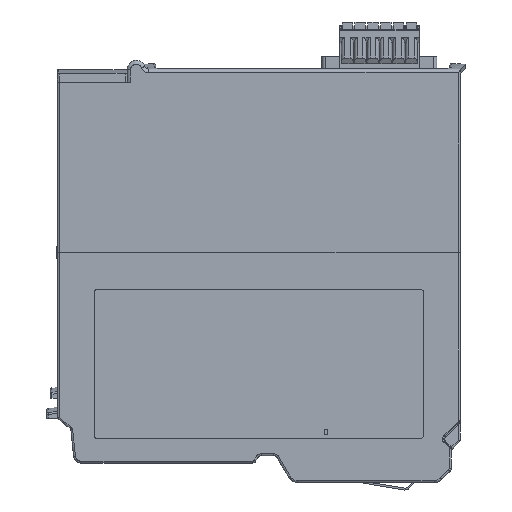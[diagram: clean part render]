
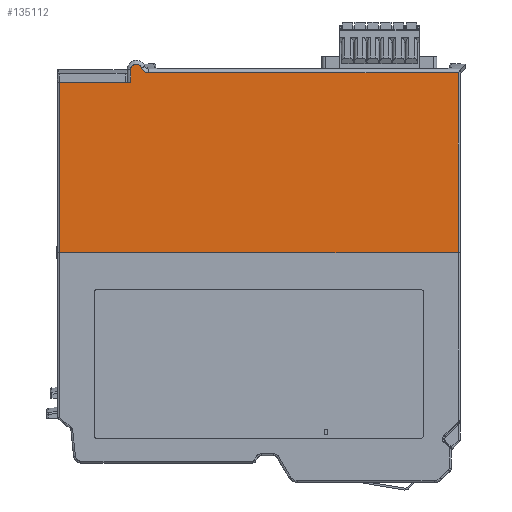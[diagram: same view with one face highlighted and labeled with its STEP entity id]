
A CAD part, left-side view. The second image highlights one B-rep face of the part: STEP entity #135112.
In plain terms, the highlighted planar face has unit normal (-1, 0, 0).
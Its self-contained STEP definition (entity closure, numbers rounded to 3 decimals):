
#3116 =( BOUNDED_CURVE ( )  B_SPLINE_CURVE ( 3, ( #26307, #58980, #93962, #27794 ),
 .UNSPECIFIED., .F., .T. ) 
 B_SPLINE_CURVE_WITH_KNOTS ( ( 4, 4 ),
 ( 0., 1. ),
 .UNSPECIFIED. ) 
 CURVE ( )  GEOMETRIC_REPRESENTATION_ITEM ( )  RATIONAL_B_SPLINE_CURVE ( ( 1., 0.449, 0.449, 1. ) ) 
 REPRESENTATION_ITEM ( '' )  );
#4403 = VECTOR ( 'NONE', #53791, 1000. ) ;
#4856 = CARTESIAN_POINT ( 'NONE',  ( 0., 86.949, 50.125 ) ) ;
#7932 = EDGE_CURVE ( 'NONE', #46662, #29163, #58700, .T. ) ;
#10084 = VECTOR ( 'NONE', #109896, 1000. ) ;
#10913 = LINE ( 'NONE', #99382, #70693 ) ;
#13766 = LINE ( 'NONE', #70224, #138238 ) ;
#16751 = CARTESIAN_POINT ( 'NONE',  ( 0., 86.689, 49.78 ) ) ;
#17176 = CARTESIAN_POINT ( 'NONE',  ( 0., 0.5, 50. ) ) ;
#20598 = EDGE_CURVE ( 'NONE', #85572, #29163, #141973, .T. ) ;
#21870 = PLANE ( 'NONE',  #112180 ) ;
#26307 = CARTESIAN_POINT ( 'NONE',  ( 0., 90., 50. ) ) ;
#27794 = CARTESIAN_POINT ( 'NONE',  ( 0., 87.09, 50.512 ) ) ;
#29163 = VERTEX_POINT ( 'NONE', #142845 ) ;
#33223 = ORIENTED_EDGE ( 'NONE', *, *, #109554, .F. ) ;
#44490 = ORIENTED_EDGE ( 'NONE', *, *, #119229, .F. ) ;
#45006 = DIRECTION ( 'NONE',  ( 0., 0., 1. ) ) ;
#46662 = VERTEX_POINT ( 'NONE', #145677 ) ;
#52432 = EDGE_LOOP ( 'NONE', ( #33223, #131585, #98814, #125477, #84465, #44490, #139820, #53513 ) ) ;
#53513 = ORIENTED_EDGE ( 'NONE', *, *, #20598, .F. ) ;
#53791 = DIRECTION ( 'NONE',  ( 0., 0., 1. ) ) ;
#55274 = LINE ( 'NONE', #64948, #4403 ) ;
#56773 = B_SPLINE_CURVE_WITH_KNOTS ( 'NONE', 3,
 ( #131140, #4856, #16751, #128987, #140082, #62797 ),
 .UNSPECIFIED., .F., .F.,
 ( 4, 2, 4 ),
 ( 0., 0.5, 1. ),
 .UNSPECIFIED. ) ;
#58196 = DIRECTION ( 'NONE',  ( 0., 0., -1. ) ) ;
#58700 = LINE ( 'NONE', #104158, #138850 ) ;
#58980 = CARTESIAN_POINT ( 'NONE',  ( 0., 90., 52.194 ) ) ;
#60446 = VERTEX_POINT ( 'NONE', #121382 ) ;
#62797 = CARTESIAN_POINT ( 'NONE',  ( 0., 85.19, 49.166 ) ) ;
#64433 = CARTESIAN_POINT ( 'NONE',  ( 0., 91., 46.5 ) ) ;
#64948 = CARTESIAN_POINT ( 'NONE',  ( 0., 90., 50. ) ) ;
#67514 = VERTEX_POINT ( 'NONE', #98807 ) ;
#70224 = CARTESIAN_POINT ( 'NONE',  ( 0., 0., 49.166 ) ) ;
#70693 = VECTOR ( 'NONE', #45006, 1000. ) ;
#78318 = FACE_OUTER_BOUND ( 'NONE', #52432, .T. ) ;
#82824 = VERTEX_POINT ( 'NONE', #122376 ) ;
#83665 = EDGE_CURVE ( 'NONE', #111029, #138197, #86843, .T. ) ;
#84465 = ORIENTED_EDGE ( 'NONE', *, *, #83665, .F. ) ;
#85572 = VERTEX_POINT ( 'NONE', #93873 ) ;
#86843 = LINE ( 'NONE', #64433, #10084 ) ;
#87748 = CARTESIAN_POINT ( 'NONE',  ( 0., 109.5, 46.5 ) ) ;
#93873 = CARTESIAN_POINT ( 'NONE',  ( 0., 0.5, 49.166 ) ) ;
#93962 = CARTESIAN_POINT ( 'NONE',  ( 0., 87.839, 52.574 ) ) ;
#98807 = CARTESIAN_POINT ( 'NONE',  ( 0., 85.19, 49.166 ) ) ;
#98814 = ORIENTED_EDGE ( 'NONE', *, *, #112692, .F. ) ;
#99382 = CARTESIAN_POINT ( 'NONE',  ( 0., 109.5, 50. ) ) ;
#103629 = DIRECTION ( 'NONE',  ( 1., 0., 0. ) ) ;
#104158 = CARTESIAN_POINT ( 'NONE',  ( 0., 110.358, 0. ) ) ;
#105238 = DIRECTION ( 'NONE',  ( 0., -1., 0. ) ) ;
#106442 = EDGE_CURVE ( 'NONE', #82824, #67514, #56773, .T. ) ;
#109554 = EDGE_CURVE ( 'NONE', #67514, #85572, #13766, .T. ) ;
#109896 = DIRECTION ( 'NONE',  ( 0., -1., 0. ) ) ;
#111029 = VERTEX_POINT ( 'NONE', #87748 ) ;
#112180 = AXIS2_PLACEMENT_3D ( 'NONE', #137637, #103629, #58196 ) ;
#112692 = EDGE_CURVE ( 'NONE', #60446, #82824, #3116, .T. ) ;
#115752 = CARTESIAN_POINT ( 'NONE',  ( 0., 90., 46.5 ) ) ;
#116687 = DIRECTION ( 'NONE',  ( 0., -1., 0. ) ) ;
#119229 = EDGE_CURVE ( 'NONE', #46662, #111029, #10913, .T. ) ;
#119589 = EDGE_CURVE ( 'NONE', #138197, #60446, #55274, .T. ) ;
#121382 = CARTESIAN_POINT ( 'NONE',  ( 0., 90., 50. ) ) ;
#122376 = CARTESIAN_POINT ( 'NONE',  ( 0., 87.09, 50.512 ) ) ;
#125477 = ORIENTED_EDGE ( 'NONE', *, *, #119589, .F. ) ;
#128987 = CARTESIAN_POINT ( 'NONE',  ( 0., 86.014, 49.299 ) ) ;
#130375 = VECTOR ( 'NONE', #139742, 1000. ) ;
#131140 = CARTESIAN_POINT ( 'NONE',  ( 0., 87.09, 50.512 ) ) ;
#131585 = ORIENTED_EDGE ( 'NONE', *, *, #106442, .F. ) ;
#135112 = ADVANCED_FACE ( 'NONE', ( #78318 ), #21870, .F. ) ;
#137637 = CARTESIAN_POINT ( 'NONE',  ( 0., 0., 50. ) ) ;
#138197 = VERTEX_POINT ( 'NONE', #115752 ) ;
#138238 = VECTOR ( 'NONE', #105238, 1000. ) ;
#138850 = VECTOR ( 'NONE', #116687, 1000. ) ;
#139742 = DIRECTION ( 'NONE',  ( 0., 0., -1. ) ) ;
#139820 = ORIENTED_EDGE ( 'NONE', *, *, #7932, .T. ) ;
#140082 = CARTESIAN_POINT ( 'NONE',  ( 0., 85.605, 49.166 ) ) ;
#141973 = LINE ( 'NONE', #17176, #130375 ) ;
#142845 = CARTESIAN_POINT ( 'NONE',  ( 0., 0.5, 0. ) ) ;
#145677 = CARTESIAN_POINT ( 'NONE',  ( 0., 109.5, 0. ) ) ;
